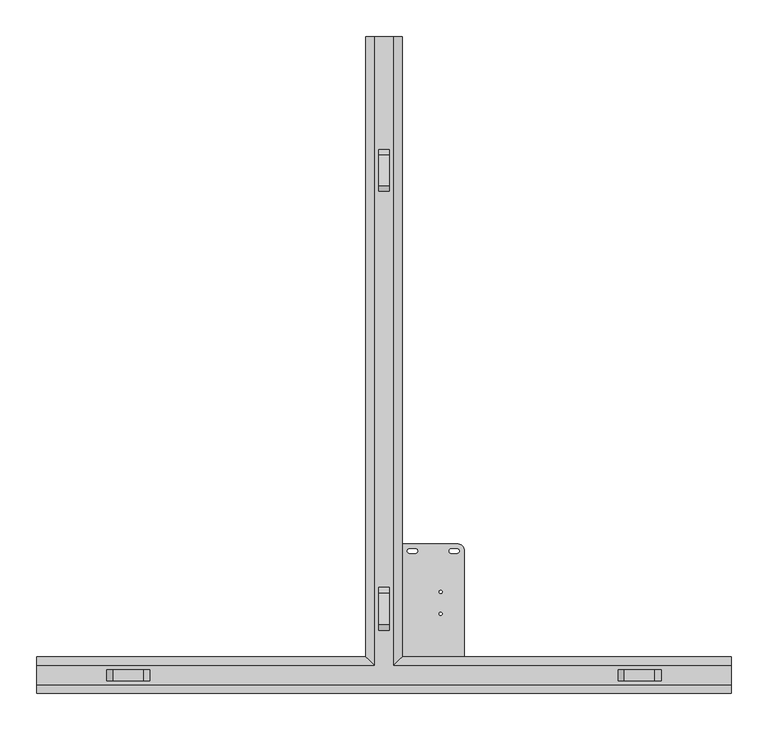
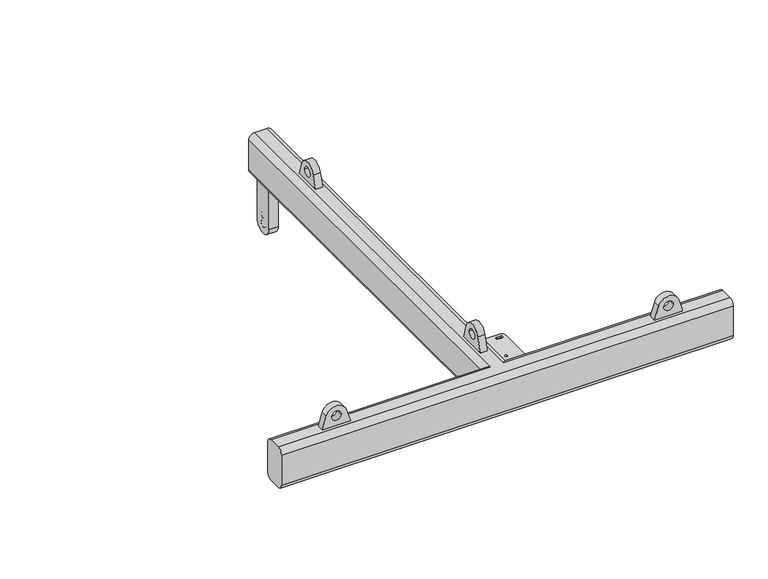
"""IFC4 building model written with IfcOpenShell, lengths in millimetres: proxy geometry, d&b SL-Series KSLi SUB Mounting Frame : KSLi SUB Mounting Frame."""

import ifcopenshell
import ifcopenshell.guid

model = None  # the IFC model being written
_history = None  # IfcOwnerHistory: only IFC2X3 demands one
_inside = {}  # id of a spatial element -> (the spatial element, [elements in it])
_under = {}  # id of a project, library or spatial element -> (it, [spatial elements below it])
_declared = {}  # id of a project -> (the project, [libraries it declares])
_typed = {}  # id of a type object -> (the type object, [elements of that type])
_made_of = {}  # id of a material, layer set ... -> (it, [elements and type objects made of it])


def new_model(schema):
    """Start an empty IFC model of exactly this schema.

    Asked for "IFC4X3", IfcOpenShell would pick the latest addendum, in which some entities
    have other attributes; the version numbers below select the first issue.
    IFC2X3 requires an IfcOwnerHistory on every rooted entity: one is made here for all.
    """
    global model, _history
    if schema == "IFC4X3":
        model = ifcopenshell.file(schema_version=(4, 3, 0, 0))
    else:
        model = ifcopenshell.file(schema=schema)
    _inside.clear()
    _under.clear()
    _declared.clear()
    _typed.clear()
    _made_of.clear()
    _history = None
    if model.schema == "IFC2X3":
        org = make("IfcOrganization", Name="unknown")
        user = make(
            "IfcPersonAndOrganization",
            ThePerson=make("IfcPerson", FamilyName="unknown"),
            TheOrganization=org,
        )
        app = make(
            "IfcApplication",
            ApplicationDeveloper=org,
            Version="unknown",
            ApplicationFullName="unknown",
            ApplicationIdentifier="unknown",
        )
        _history = make(
            "IfcOwnerHistory",
            OwningUser=user,
            OwningApplication=app,
            ChangeAction="ADDED",
            CreationDate=0,
        )
    return model


def make(cls, **values):
    """One entity of the class cls with the attributes given. An attribute that is None is left unset."""
    return model.create_entity(
        cls, **{name: value for name, value in values.items() if value is not None}
    )


def rooted(cls, **values):
    """An entity with a GlobalId (a new one), such as an element, a storey or a relation."""
    return make(cls, GlobalId=ifcopenshell.guid.new(), OwnerHistory=_history, **values)


def si_unit(unit_type, name, prefix=None):
    """IfcSIUnit, for example si_unit("LENGTHUNIT", "METRE", prefix="MILLI")."""
    return make("IfcSIUnit", UnitType=unit_type, Prefix=prefix, Name=name)


def assignment(units):
    """IfcUnitAssignment: the units of a project."""
    return None if units is None else make("IfcUnitAssignment", Units=units)


def point(xyz):
    """IfcCartesianPoint."""
    return None if xyz is None else make("IfcCartesianPoint", Coordinates=xyz)


def direction(xyz):
    """IfcDirection."""
    return None if xyz is None else make("IfcDirection", DirectionRatios=xyz)


def frame(location, z_axis=None, x_axis=None):
    """IfcAxis2Placement3D, a coordinate frame: its origin and axes. An axis left out is left unset."""
    return make(
        "IfcAxis2Placement3D",
        Location=point(location),
        Axis=direction(z_axis),
        RefDirection=direction(x_axis),
    )


def frame_2d(location, x_axis=None):
    """IfcAxis2Placement2D, a coordinate frame in the plane: its origin and x axis."""
    return make(
        "IfcAxis2Placement2D", Location=point(location), RefDirection=direction(x_axis)
    )


def origin():
    """The frame at (0, 0, 0) with its axes left unset."""
    return frame((0.0, 0.0, 0.0))


def place(relative_to, where):
    """IfcLocalPlacement: puts the frame where relative to a parent placement (None: the world)."""
    return make(
        "IfcLocalPlacement", PlacementRelTo=relative_to, RelativePlacement=where
    )


def context(
    kind, dimensions, precision=None, world=None, true_north=None, identifier=None
):
    """IfcGeometricRepresentationContext, for example the 3D "Model" context."""
    return make(
        "IfcGeometricRepresentationContext",
        ContextIdentifier=identifier,
        ContextType=kind,
        CoordinateSpaceDimension=dimensions,
        Precision=precision,
        WorldCoordinateSystem=world,
        TrueNorth=true_north,
    )


def project(units=None, contexts=None):
    """IfcProject with its units and contexts."""
    return rooted(
        "IfcProject",
        Name="project",
        RepresentationContexts=contexts,
        UnitsInContext=assignment(units),
    )


def spatial(cls, under=None, at=None, **own):
    """A site, building, storey or space (cls), placed at a placement, below another one or the project."""
    s = rooted(cls, ObjectPlacement=at, **own)
    if under is not None:
        _under.setdefault(under.id(), (under, []))[1].append(s)
    return s


def polyline(points):
    """IfcPolyline through the points."""
    return make("IfcPolyline", Points=[point(p) for p in points])


def circle_curve(where, radius):
    """IfcCircle in the frame where."""
    return make("IfcCircle", Position=where, Radius=radius)


def ellipse_curve(where, semi_axis1, semi_axis2):
    """IfcEllipse in the frame where."""
    return make(
        "IfcEllipse", Position=where, SemiAxis1=semi_axis1, SemiAxis2=semi_axis2
    )


def trimmed(basis, trim1, trim2, sense, master):
    """IfcTrimmedCurve: the piece of a basis curve between two trims."""
    return make(
        "IfcTrimmedCurve",
        BasisCurve=basis,
        Trim1=trim1,
        Trim2=trim2,
        SenseAgreement=sense,
        MasterRepresentation=master,
    )


def segment(curve, same_sense, transition):
    """IfcCompositeCurveSegment."""
    return make(
        "IfcCompositeCurveSegment",
        Transition=transition,
        SameSense=same_sense,
        ParentCurve=curve,
    )


def composite_curve(segments, self_intersect=None):
    """IfcCompositeCurve: segments joined end to end."""
    return make("IfcCompositeCurve", Segments=segments, SelfIntersect=self_intersect)


def outline(outer, holes=None, kind="AREA"):
    """IfcArbitraryClosedProfileDef: a profile drawn as a closed curve; with holes, ...WithVoids."""
    if holes is None:
        return make("IfcArbitraryClosedProfileDef", ProfileType=kind, OuterCurve=outer)
    return make(
        "IfcArbitraryProfileDefWithVoids",
        ProfileType=kind,
        OuterCurve=outer,
        InnerCurves=holes,
    )


def extrude(swept, where, along, depth):
    """IfcExtrudedAreaSolid: the profile swept, set in the frame where, extruded along a direction by depth."""
    return make(
        "IfcExtrudedAreaSolid",
        SweptArea=swept,
        Position=where,
        ExtrudedDirection=direction(along),
        Depth=depth,
    )


def shape(context_of_items, identifier, shape_type, items):
    """IfcShapeRepresentation: the items that make up one representation, for example the "Body"."""
    return make(
        "IfcShapeRepresentation",
        ContextOfItems=context_of_items,
        RepresentationIdentifier=identifier,
        RepresentationType=shape_type,
        Items=items,
    )


def source(mapping_origin, context_of_items, identifier, shape_type, items):
    """IfcRepresentationMap: a shape defined once, which mapped items show again and again."""
    return make(
        "IfcRepresentationMap",
        MappingOrigin=mapping_origin,
        MappedRepresentation=shape(context_of_items, identifier, shape_type, items),
    )


def transform(
    local_origin,
    x_axis=None,
    y_axis=None,
    z_axis=None,
    scale=None,
    scale2=None,
    scale3=None,
    uniform=True,
):
    """IfcCartesianTransformationOperator3D, or its non-uniform kind. x_axis, y_axis, z_axis: its Axis1, 2, 3."""
    if uniform:
        return make(
            "IfcCartesianTransformationOperator3D",
            Axis1=direction(x_axis),
            Axis2=direction(y_axis),
            LocalOrigin=point(local_origin),
            Scale=scale,
            Axis3=direction(z_axis),
        )
    return make(
        "IfcCartesianTransformationOperator3DnonUniform",
        Axis1=direction(x_axis),
        Axis2=direction(y_axis),
        LocalOrigin=point(local_origin),
        Scale=scale,
        Axis3=direction(z_axis),
        Scale2=scale2,
        Scale3=scale3,
    )


def mapped(mapping_source, mapping_target):
    """IfcMappedItem: shows the shape of a source again, moved by a transform."""
    return make(
        "IfcMappedItem", MappingSource=mapping_source, MappingTarget=mapping_target
    )


def made_of(thing, what):
    """Note that an element or type object is made of a material, layer set ...; save() writes the relation."""
    if what is not None:
        _made_of.setdefault(what.id(), (what, []))[1].append(thing)
    return thing


def element(
    cls,
    number,
    at=None,
    inside=None,
    cuts=None,
    type_object=None,
    material=None,
    context=None,
    identifier="Body",
    shape_type=None,
    held_by="IfcProductDefinitionShape",
    body=None,
    shapes=None,
    **own,
):
    """One element of the class cls, such as IfcWall. Its Tag is "e" and its number.

    at: its placement. inside: the storey or other place that contains it. cuts: it is an
    opening in that element (IfcRelVoidsElement). A single representation is given by context,
    identifier, shape_type and body (its items); several are given by shapes. held_by: the class
    of the entity that holds the representations. save() writes the other relations.
    """
    e = rooted(cls, Tag="e%d" % number, ObjectPlacement=at, **own)
    if body is not None:
        shapes = [shape(context, identifier, shape_type, body)]
    if shapes is not None:
        e.Representation = make(held_by, Representations=shapes)
    if inside is not None:
        _inside.setdefault(inside.id(), (inside, []))[1].append(e)
    if cuts is not None:
        rooted(
            "IfcRelVoidsElement", RelatingBuildingElement=cuts, RelatedOpeningElement=e
        )
    if type_object is not None:
        _typed.setdefault(type_object.id(), (type_object, []))[1].append(e)
    return made_of(e, material)


def aggregate(whole, parts):
    """IfcRelAggregates: a whole, such as a stair, and the parts it consists of."""
    return rooted("IfcRelAggregates", RelatingObject=whole, RelatedObjects=parts)


def save(model, path):
    """Write the relations noted so far, then the file.

    IfcRelAggregates (storeys below a building ...), IfcRelContainedInSpatialStructure (elements
    in a storey), IfcRelDefinesByType, IfcRelAssociatesMaterial and IfcRelDeclares: one each for
    every whole, place, type object, material and project.
    """
    for whole, parts in _under.values():
        aggregate(whole, parts)
    for where, things in _inside.values():
        rooted(
            "IfcRelContainedInSpatialStructure",
            RelatedElements=things,
            RelatingStructure=where,
        )
    for kind, things in _typed.values():
        rooted("IfcRelDefinesByType", RelatedObjects=things, RelatingType=kind)
    for what, things in _made_of.values():
        rooted("IfcRelAssociatesMaterial", RelatedObjects=things, RelatingMaterial=what)
    for by, libraries in _declared.values():
        rooted("IfcRelDeclares", RelatingContext=by, RelatedDefinitions=libraries)
    model.write(path)


def plane_surface(at):
    """IfcPlane: the flat surface through the origin of the frame at, square to its z axis."""
    return make("IfcPlane", Position=at)


def cylinder_surface(at, radius):
    """IfcCylindricalSurface: all points at the distance radius from the z axis of the frame at."""
    return make("IfcCylindricalSurface", Position=at, Radius=radius)


def advanced_brep(points, edges, surfaces, faces):
    """IfcAdvancedBrep: a solid bounded by faces that lie on surfaces and meet in shared edges.

    An edge is (start, end): straight between two places in points (the first is 0);
    or (start, end, curve); or (start, end, curve, False) where it runs against its curve.
    A face is (place in surfaces, loops), or (place, loops, False) where it looks against
    its surface's normal. A loop lists edges by number (the first is 1), with a minus sign
    where the edge is run from its end to its start. The first loop is the outer one.
    """
    corners = [point(p) for p in points]
    vertices = [make("IfcVertexPoint", VertexGeometry=c) for c in corners]
    made = []
    for start, end, *more in edges:
        made.append(
            make(
                "IfcEdgeCurve",
                EdgeStart=vertices[start],
                EdgeEnd=vertices[end],
                EdgeGeometry=more[0] if more else make("IfcPolyline", Points=[corners[start], corners[end]]),
                SameSense=more[1] if len(more) > 1 else True,
            )
        )
    hull = []
    for where, loops, *sense in faces:
        bounds = []
        for j, loop in enumerate(loops):
            ring = [make("IfcOrientedEdge", EdgeElement=made[abs(k) - 1], Orientation=k > 0) for k in loop]
            bounds.append(
                make(
                    "IfcFaceOuterBound" if j == 0 else "IfcFaceBound",
                    Bound=make("IfcEdgeLoop", EdgeList=ring),
                    Orientation=True,
                )
            )
        hull.append(make("IfcAdvancedFace", Bounds=bounds, FaceSurface=surfaces[where], SameSense=sense[0] if sense else True))
    return make("IfcAdvancedBrep", Outer=make("IfcClosedShell", CfsFaces=hull))


def communication_devices_27bca6b1(model_context):
    return source(origin(), model_context, "Body", "SolidModel", [
        advanced_brep(
        [(475.75, -2.8125, 9.0), (475.75, 9.1875, -3.0), (475.75, 35.1875, -3.0), (475.75, 47.1875, 9.0), (475.75, 47.1875, 75.0), (475.75, 35.1875, 87.0), (475.75, 9.1875, 87.0), (475.75, -2.8125, 75.0), (-475.75, -2.8125, 9.0), (-475.75, -2.8125, 75.0), (-475.75, 9.1875, 87.0), (-475.75, 35.1875, 87.0), (-475.75, 47.1875, 75.0), (-475.75, 47.1875, 9.0), (-475.75, 35.1875, -3.0), (-475.75, 9.1875, -3.0), (-13.0, 35.1875, -3.0), (-13.0, 897.1875, -3.0), (13.0, 897.1875, -3.0), (13.0, 35.1875, -3.0), (25.0, 47.1875, 9.0), (25.0, 47.1875, 75.0), (-25.0, 47.1875, 75.0), (-25.0, 47.1875, 9.0), (13.0, 35.1875, 87.0), (13.0, 897.1875, 87.0), (-13.0, 897.1875, 87.0), (-13.0, 35.1875, 87.0), (-25.0, 897.1875, 9.0), (-25.0, 897.1875, 75.0), (25.0, 897.1875, 75.0), (25.0, 897.1875, 9.0)],
        [
            (0, 1, circle_curve(frame((475.75, 9.1875, 9.0), z_axis=(1.0, 0.0, 0.0), x_axis=(0.0, -1.0, 0.0)), 12.0)),
            (1, 2),
            (2, 3, circle_curve(frame((475.75, 35.1875, 9.0), z_axis=(1.0, 0.0, 0.0), x_axis=(0.0, -1.0, 0.0)), 12.0)),
            (3, 4),
            (4, 5, circle_curve(frame((475.75, 35.1875, 75.0), z_axis=(1.0, 0.0, 0.0), x_axis=(0.0, -1.0, 0.0)), 12.0)),
            (5, 6),
            (6, 7, circle_curve(frame((475.75, 9.1875, 75.0), z_axis=(1.0, 0.0, 0.0), x_axis=(0.0, -1.0, 0.0)), 12.0)),
            (7, 0),
            (8, 9),
            (9, 10, circle_curve(frame((-475.75, 9.1875, 75.0), z_axis=(-1.0, 0.0, 0.0), x_axis=(0.0, -1.0, 0.0)), 12.0)),
            (10, 11),
            (11, 12, circle_curve(frame((-475.75, 35.1875, 75.0), z_axis=(-1.0, 0.0, 0.0), x_axis=(0.0, -1.0, 0.0)), 12.0)),
            (12, 13),
            (13, 14, circle_curve(frame((-475.75, 35.1875, 9.0), z_axis=(-1.0, 0.0, 0.0), x_axis=(0.0, -1.0, 0.0)), 12.0)),
            (14, 15),
            (15, 8, circle_curve(frame((-475.75, 9.1875, 9.0), z_axis=(-1.0, 0.0, 0.0), x_axis=(0.0, -1.0, 0.0)), 12.0)),
            (1, 15),
            (14, 16),
            (16, 17),
            (17, 18),
            (18, 19),
            (19, 2),
            (3, 20),
            (20, 21),
            (21, 4),
            (12, 22),
            (22, 23),
            (23, 13),
            (5, 24),
            (24, 25),
            (25, 26),
            (26, 27),
            (27, 11),
            (10, 6),
            (7, 9),
            (8, 0),
            (19, 20, ellipse_curve(frame((13.0, 35.1875, 9.0), z_axis=(0.7071067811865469, -0.7071067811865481, 0.0), x_axis=(0.7071067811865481, 0.7071067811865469, 0.0)), 16.9705627, 12.0)),
            (23, 16, ellipse_curve(frame((-13.0, 35.1875, 9.0), z_axis=(-0.7071067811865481, -0.7071067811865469, 0.0), x_axis=(0.7071067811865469, -0.7071067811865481, 0.0)), 16.9705627, 12.0)),
            (21, 24, ellipse_curve(frame((13.0, 35.1875, 75.0), z_axis=(0.7071067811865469, -0.7071067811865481, 0.0), x_axis=(0.7071067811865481, 0.7071067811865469, 0.0)), 16.9705627, 12.0)),
            (27, 22, ellipse_curve(frame((-13.0, 35.1875, 75.0), z_axis=(-0.7071067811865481, -0.7071067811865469, 0.0), x_axis=(0.7071067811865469, -0.7071067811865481, 0.0)), 16.9705627, 12.0)),
            (28, 29),
            (29, 26, circle_curve(frame((-13.0, 897.1875, 75.0), z_axis=(0.0, 1.0, 0.0), x_axis=(1.0, 0.0, 0.0)), 12.0)),
            (25, 30, circle_curve(frame((13.0, 897.1875, 75.0), z_axis=(0.0, 1.0, 0.0), x_axis=(1.0, 0.0, 0.0)), 12.0)),
            (30, 31),
            (31, 18, circle_curve(frame((13.0, 897.1875, 9.0), z_axis=(0.0, 1.0, 0.0), x_axis=(1.0, 0.0, 0.0)), 12.0)),
            (17, 28, circle_curve(frame((-13.0, 897.1875, 9.0), z_axis=(0.0, 1.0, 0.0), x_axis=(1.0, 0.0, 0.0)), 12.0)),
            (30, 21),
            (20, 31),
            (28, 23),
            (22, 29),
        ],
        [
            plane_surface(frame((475.75, -2.8125, 9.0), z_axis=(1.0, 0.0, 0.0), x_axis=(0.0, 0.0, -1.0))),
            plane_surface(frame((-475.75, -2.8125, 9.0), z_axis=(-1.0, 0.0, 0.0), x_axis=(0.0, 0.0, 1.0))),
            plane_surface(frame((475.75, 9.1875, -3.0), z_axis=(0.0, 0.0, -1.0), x_axis=(-1.0, 0.0, 0.0))),
            plane_surface(frame((475.75, 47.1875, 9.0), z_axis=(0.0, 1.0, 0.0), x_axis=(-1.0, 0.0, 0.0))),
            plane_surface(frame((475.75, 35.1875, 87.0), z_axis=(0.0, 0.0, 1.0), x_axis=(-1.0, 0.0, 0.0))),
            plane_surface(frame((475.75, -2.8125, 75.0), z_axis=(0.0, -1.0, 0.0), x_axis=(-1.0, 0.0, 0.0))),
            cylinder_surface(frame((-475.75, 9.1875, 9.0), z_axis=(1.0, 0.0, 0.0), x_axis=(0.0, -1.0, 0.0)), 12.0),
            cylinder_surface(frame((-475.75, 35.1875, 9.0), z_axis=(1.0, 0.0, 0.0), x_axis=(0.0, -1.0, 0.0)), 12.0),
            cylinder_surface(frame((-475.75, 35.1875, 75.0), z_axis=(1.0, 0.0, 0.0), x_axis=(0.0, -1.0, 0.0)), 12.0),
            cylinder_surface(frame((-475.75, 9.1875, 75.0), z_axis=(1.0, 0.0, 0.0), x_axis=(0.0, -1.0, 0.0)), 12.0),
            plane_surface(frame((-1.0, 897.1875, 9.0), z_axis=(0.0, 1.0, 0.0), x_axis=(0.0, 0.0, -1.0))),
            plane_surface(frame((25.0, 29.6875, 9.0), z_axis=(1.0, 0.0, 0.0), x_axis=(0.0, 1.0, 0.0))),
            plane_surface(frame((-25.0, 29.6875, 75.0), z_axis=(-1.0, 0.0, 0.0), x_axis=(0.0, 1.0, 0.0))),
            cylinder_surface(frame((-13.0, 897.1875, 9.0), z_axis=(0.0, -1.0, 0.0), x_axis=(1.0, 0.0, 0.0)), 12.0),
            cylinder_surface(frame((13.0, 897.1875, 9.0), z_axis=(0.0, -1.0, 0.0), x_axis=(1.0, 0.0, 0.0)), 12.0),
            cylinder_surface(frame((13.0, 897.1875, 75.0), z_axis=(0.0, -1.0, 0.0), x_axis=(1.0, 0.0, 0.0)), 12.0),
            cylinder_surface(frame((-13.0, 897.1875, 75.0), z_axis=(0.0, -1.0, 0.0), x_axis=(1.0, 0.0, 0.0)), 12.0),
        ],
        [
            (0, [[1, 2, 3, 4, 5, 6, 7, 8]]),
            (1, [[9, 10, 11, 12, 13, 14, 15, 16]]),
            (2, [[-2, 17, -15, 18, 19, 20, 21, 22]]),
            (3, [[-4, 23, 24, 25]]),
            (3, [[-13, 26, 27, 28]]),
            (4, [[-6, 29, 30, 31, 32, 33, -11, 34]]),
            (5, [[-8, 35, -9, 36]]),
            (6, [[-1, -36, -16, -17]]),
            (7, [[-3, -22, 37, -23]]),
            (7, [[-14, -28, 38, -18]]),
            (8, [[-5, -25, 39, -29]]),
            (8, [[-12, -33, 40, -26]]),
            (9, [[-7, -34, -10, -35]]),
            (10, [[41, 42, -31, 43, 44, 45, -20, 46]]),
            (11, [[-44, 47, -24, 48]]),
            (12, [[-41, 49, -27, 50]]),
            (13, [[-46, -19, -38, -49]]),
            (14, [[-45, -48, -37, -21]]),
            (15, [[-43, -30, -39, -47]]),
            (16, [[-42, -50, -40, -32]]),
        ],
    ),
        extrude(outline(composite_curve([segment(polyline([(110.0, 192.1875), (110.0, 47.1875), (25.0, 47.1875), (25.0, 202.1875), (100.0, 202.1875)]), True, "CONTINUOUS"), segment(trimmed(circle_curve(frame_2d((100.0, 192.1875)), 10.0), [point((100.0, 202.1875))], [point((110.0, 192.1875))], False, "CARTESIAN"), True, "CONTINUOUS")], self_intersect=False), holes=[composite_curve([segment(trimmed(circle_curve(frame_2d((92.0, 192.1875)), 3.0), [point((92.0, 195.1875))], [point((92.0, 189.1875))], True, "CARTESIAN"), True, "CONTINUOUS"), segment(polyline([(92.0, 189.1875), (100.0, 189.1875)]), True, "CONTINUOUS"), segment(trimmed(circle_curve(frame_2d((100.0, 192.1875)), 3.0), [point((100.0, 189.1875))], [point((100.0, 195.1875))], True, "CARTESIAN"), True, "CONTINUOUS"), segment(polyline([(100.0, 195.1875), (92.0, 195.1875)]), True, "CONTINUOUS")], self_intersect=False), composite_curve([segment(trimmed(circle_curve(frame_2d((35.0, 192.1875)), 3.0), [point((35.0, 195.1875))], [point((35.0, 189.1875))], True, "CARTESIAN"), True, "CONTINUOUS"), segment(polyline([(35.0, 189.1875), (43.0, 189.1875)]), True, "CONTINUOUS"), segment(trimmed(circle_curve(frame_2d((43.0, 192.1875)), 3.0), [point((43.0, 189.1875))], [point((43.0, 195.1875))], True, "CARTESIAN"), True, "CONTINUOUS"), segment(polyline([(43.0, 195.1875), (35.0, 195.1875)]), True, "CONTINUOUS")], self_intersect=False), composite_curve([segment(trimmed(circle_curve(frame_2d((77.5620806, 136.1792132)), 2.1161299), [point((75.4459507, 136.1792132))], [point((79.6782105, 136.1792132))], True, "CARTESIAN"), True, "CONTINUOUS"), segment(trimmed(circle_curve(frame_2d((77.5620806, 136.1792132)), 2.1161299), [point((79.6782105, 136.1792132))], [point((75.4459507, 136.1792132))], True, "CARTESIAN"), True, "CONTINUOUS")], self_intersect=False), composite_curve([segment(trimmed(circle_curve(frame_2d((77.5620806, 106.1792132)), 2.1161299), [point((75.4459507, 106.1792132))], [point((79.6782105, 106.1792132))], True, "CARTESIAN"), True, "CONTINUOUS"), segment(trimmed(circle_curve(frame_2d((77.5620806, 106.1792132)), 2.1161299), [point((79.6782105, 106.1792132))], [point((75.4459507, 106.1792132))], True, "CARTESIAN"), True, "CONTINUOUS")], self_intersect=False)]), frame((0.0, 0.0, 16.5), z_axis=(0.0, 0.0, 1.0), x_axis=(1.0, 0.0, 0.0)), (0.0, 0.0, 1.0), 3.0),
        extrude(outline(composite_curve([segment(trimmed(circle_curve(frame_2d((871.067234, -101.3609632)), 21.0000314), [point((892.0672654, -101.3609632))], [point((850.0672026, -101.3609632))], False, "CARTESIAN"), True, "CONTINUOUS"), segment(polyline([(850.0672026, -101.3609632), (850.0672026, -3.0), (892.0672654, -3.0), (892.0672654, -101.3609632)]), True, "CONTINUOUS")], self_intersect=False)), frame((-10.0, 0.0, 0.0), z_axis=(1.0, 0.0, 0.0), x_axis=(0.0, 1.0, 0.0)), (0.0, 0.0, 1.0), 20.0),
        extrude(outline(composite_curve([segment(trimmed(circle_curve(frame_2d((871.067234, -101.3609632)), 21.0000314), [point((892.0672654, -101.3609632))], [point((850.0672026, -101.3609632))], False, "CARTESIAN"), True, "CONTINUOUS"), segment(polyline([(850.0672026, -101.3609632), (850.0672026, -3.0), (892.0672654, -3.0), (892.0672654, -101.3609632)]), True, "CONTINUOUS")], self_intersect=False), holes=[composite_curve([segment(trimmed(circle_curve(frame_2d((871.067234, -101.3609632)), 6.730637), [point((877.797871, -101.3609632))], [point((864.336597, -101.3609632))], True, "CARTESIAN"), True, "CONTINUOUS"), segment(trimmed(circle_curve(frame_2d((871.067234, -101.3609632)), 6.730637), [point((864.336597, -101.3609632))], [point((877.797871, -101.3609632))], True, "CARTESIAN"), True, "CONTINUOUS")], self_intersect=False), composite_curve([segment(polyline([(876.208736, -82.9744243), (876.208736, -81.0000625)]), True, "CONTINUOUS"), segment(trimmed(circle_curve(frame_2d((871.067234, -81.0000625)), 5.141502), [point((876.208736, -81.0000625))], [point((865.925732, -81.0000625))], True, "CARTESIAN"), True, "CONTINUOUS"), segment(polyline([(865.925732, -81.0000625), (865.925732, -82.9744243)]), True, "CONTINUOUS"), segment(trimmed(circle_curve(frame_2d((871.067234, -82.9744243)), 5.141502), [point((865.925732, -82.9744243))], [point((876.208736, -82.9744243))], True, "CARTESIAN"), True, "CONTINUOUS")], self_intersect=False)]), frame((-10.0, 0.0, 0.0), z_axis=(1.0, 0.0, 0.0), x_axis=(0.0, 1.0, 0.0)), (0.0, 0.0, 1.0), 20.0),
        extrude(outline(composite_curve([segment(polyline([(87.0, -379.9623188), (87.0, -320.0376812), (115.5875552, -329.0094279)]), True, "CONTINUOUS"), segment(trimmed(circle_curve(frame_2d((109.0, -350.0)), 22.0), [point((115.5875552, -329.0094279))], [point((115.5875552, -370.9905721))], False, "CARTESIAN"), True, "CONTINUOUS"), segment(polyline([(115.5875552, -370.9905721), (87.0, -379.9623188)]), True, "CONTINUOUS")], self_intersect=False), holes=[composite_curve([segment(trimmed(circle_curve(frame_2d((109.0, -350.0)), 10.0), [point((109.0, -360.0))], [point((109.0, -340.0))], True, "CARTESIAN"), True, "CONTINUOUS"), segment(trimmed(circle_curve(frame_2d((109.0, -350.0)), 10.0), [point((109.0, -340.0))], [point((109.0, -360.0))], True, "CARTESIAN"), True, "CONTINUOUS")], self_intersect=False)]), frame((0.0, 14.6875, 0.0), z_axis=(0.0, 1.0, 0.0), x_axis=(0.0, 0.0, 1.0)), (0.0, 0.0, 1.0), 15.0),
        extrude(outline(composite_curve([segment(polyline([(87.0, 379.9623188), (115.5875552, 370.9905721)]), True, "CONTINUOUS"), segment(trimmed(circle_curve(frame_2d((109.0, 350.0)), 22.0), [point((115.5875552, 370.9905721))], [point((115.5875552, 329.0094279))], False, "CARTESIAN"), True, "CONTINUOUS"), segment(polyline([(115.5875552, 329.0094279), (87.0, 320.0376812), (87.0, 379.9623188)]), True, "CONTINUOUS")], self_intersect=False), holes=[composite_curve([segment(trimmed(circle_curve(frame_2d((109.0, 350.0)), 10.0), [point((109.0, 360.0))], [point((109.0, 340.0))], True, "CARTESIAN"), True, "CONTINUOUS"), segment(trimmed(circle_curve(frame_2d((109.0, 350.0)), 10.0), [point((109.0, 340.0))], [point((109.0, 360.0))], True, "CARTESIAN"), True, "CONTINUOUS")], self_intersect=False)]), frame((0.0, 14.6875, 0.0), z_axis=(0.0, 1.0, 0.0), x_axis=(0.0, 0.0, 1.0)), (0.0, 0.0, 1.0), 15.0),
        extrude(outline(composite_curve([segment(polyline([(134.084619, 118.0662474), (142.9962605, 87.0), (82.8787395, 87.0), (91.790381, 118.0662474)]), True, "CONTINUOUS"), segment(trimmed(circle_curve(frame_2d((112.9375, 112.0)), 22.0), [point((91.790381, 118.0662474))], [point((134.084619, 118.0662474))], False, "CARTESIAN"), True, "CONTINUOUS")], self_intersect=False), holes=[composite_curve([segment(trimmed(circle_curve(frame_2d((112.9375, 111.9870328)), 10.0), [point((122.9375, 111.9870328))], [point((102.9375, 111.9870328))], True, "CARTESIAN"), True, "CONTINUOUS"), segment(trimmed(circle_curve(frame_2d((112.9375, 111.9870328)), 10.0), [point((102.9375, 111.9870328))], [point((122.9375, 111.9870328))], True, "CARTESIAN"), True, "CONTINUOUS")], self_intersect=False)]), frame((-7.5, 0.0, 0.0), z_axis=(1.0, 0.0, 0.0), x_axis=(0.0, 1.0, 0.0)), (0.0, 0.0, 1.0), 15.0),
        extrude(outline(composite_curve([segment(polyline([(734.8846126, 114.9412474), (742.8998188, 87.0), (684.5751684, 87.0), (692.5903746, 114.9412474)]), True, "CONTINUOUS"), segment(trimmed(circle_curve(frame_2d((713.7374936, 108.875)), 22.0), [point((692.5903746, 114.9412474))], [point((734.8846126, 114.9412474))], False, "CARTESIAN"), True, "CONTINUOUS")], self_intersect=False), holes=[composite_curve([segment(trimmed(circle_curve(frame_2d((713.7374936, 108.8620328)), 10.0), [point((723.7374936, 108.8620328))], [point((703.7374936, 108.8620328))], True, "CARTESIAN"), True, "CONTINUOUS"), segment(trimmed(circle_curve(frame_2d((713.7374936, 108.8620328)), 10.0), [point((703.7374936, 108.8620328))], [point((723.7374936, 108.8620328))], True, "CARTESIAN"), True, "CONTINUOUS")], self_intersect=False)]), frame((-7.5, 0.0, 0.0), z_axis=(1.0, 0.0, 0.0), x_axis=(0.0, 1.0, 0.0)), (0.0, 0.0, 1.0), 15.0),
    ])


if __name__ == "__main__":
    model = new_model("IFC4")
    model_context = context("Model", 3, world=origin())
    ifc_project = project(units=[si_unit("LENGTHUNIT", "METRE", prefix="MILLI")], contexts=[model_context])
    site = spatial("IfcSite", under=ifc_project)
    building = spatial("IfcBuilding", under=site)
    placement = place(None, origin())
    communication_devices_shape = communication_devices_27bca6b1(model_context)
    element("IfcBuildingElementProxy", 1, Name="d&b SL-Series KSLi SUB Mounting Frame : KSLi SUB Mounting Frame", ObjectType="d&b SL-Series KSLi SUB Mounting Frame : KSLi SUB Mounting Frame", at=placement, inside=building, context=model_context, shape_type="MappedRepresentation", body=[
        mapped(communication_devices_shape, transform((0.0, 0.0, 0.0), x_axis=(1.0, 0.0, 0.0), y_axis=(0.0, 1.0, 0.0), z_axis=(0.0, 0.0, 1.0))),
    ])
    save(model, "model.ifc")
